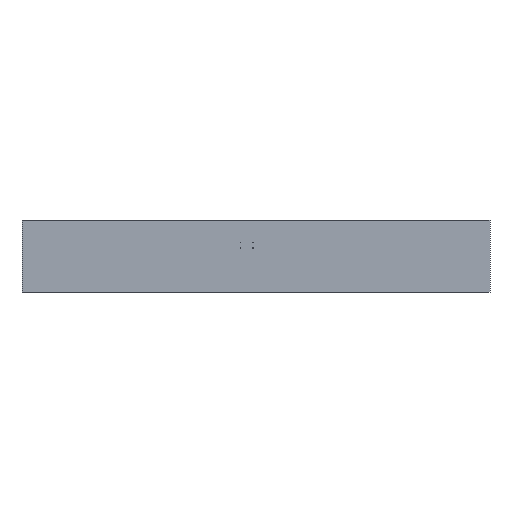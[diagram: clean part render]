
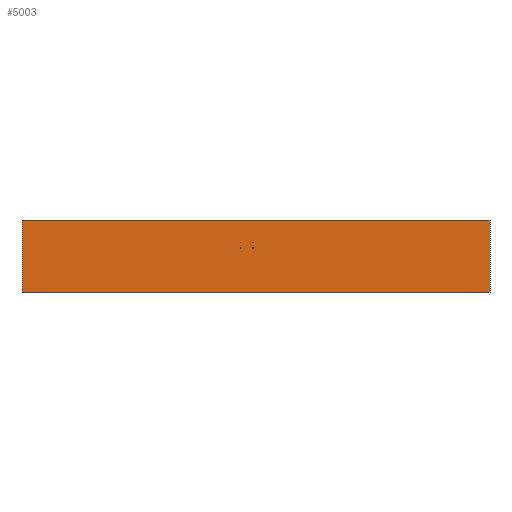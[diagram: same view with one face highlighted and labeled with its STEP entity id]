
A CAD part, front view. The second image highlights one B-rep face of the part: STEP entity #5003.
In plain terms, the highlighted planar face has unit normal (0, -1, 0).
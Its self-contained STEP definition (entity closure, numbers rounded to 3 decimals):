
#369 = VERTEX_POINT ( 'NONE', #97980 ) ;
#782 = VERTEX_POINT ( 'NONE', #93898 ) ;
#1015 = LINE ( 'NONE', #54717, #28345 ) ;
#1260 = CARTESIAN_POINT ( 'NONE',  ( 0., -100., 0. ) ) ;
#2062 = CIRCLE ( 'NONE', #19714, 5. ) ;
#2171 = VERTEX_POINT ( 'NONE', #4560 ) ;
#2278 = DIRECTION ( 'NONE',  ( 0., 0., 1. ) ) ;
#2452 = VECTOR ( 'NONE', #55768, 1000. ) ;
#3754 = DIRECTION ( 'NONE',  ( 0., 0., 1. ) ) ;
#4560 = CARTESIAN_POINT ( 'NONE',  ( 6500., -100., 1000. ) ) ;
#4702 = ORIENTED_EDGE ( 'NONE', *, *, #96717, .T. ) ;
#5003 = ADVANCED_FACE ( 'NONE', ( #64474, #41391, #54955, #69994, #71994 ), #9297, .F. ) ;
#6038 = VERTEX_POINT ( 'NONE', #34611 ) ;
#6929 = EDGE_CURVE ( 'NONE', #47814, #782, #73570, .T. ) ;
#7397 = CARTESIAN_POINT ( 'NONE',  ( -435., -100., 220. ) ) ;
#7838 = DIRECTION ( 'NONE',  ( 0., 1., 0. ) ) ;
#9297 = PLANE ( 'NONE',  #96828 ) ;
#9963 = CIRCLE ( 'NONE', #53144, 5. ) ;
#11673 = CARTESIAN_POINT ( 'NONE',  ( -435., -100., 370. ) ) ;
#13944 = DIRECTION ( 'NONE',  ( 0., 0., 1. ) ) ;
#16450 = EDGE_CURVE ( 'NONE', #51274, #20980, #21847, .T. ) ;
#17346 = DIRECTION ( 'NONE',  ( 0., 1., 0. ) ) ;
#18736 = CARTESIAN_POINT ( 'NONE',  ( -85., -100., 370. ) ) ;
#19208 = EDGE_CURVE ( 'NONE', #6038, #42935, #21784, .T. ) ;
#19451 = VERTEX_POINT ( 'NONE', #21115 ) ;
#19714 = AXIS2_PLACEMENT_3D ( 'NONE', #11673, #49806, #41285 ) ;
#20980 = VERTEX_POINT ( 'NONE', #59508 ) ;
#21115 = CARTESIAN_POINT ( 'NONE',  ( -435., -100., 375. ) ) ;
#21771 = CIRCLE ( 'NONE', #23349, 5. ) ;
#21784 = CIRCLE ( 'NONE', #61913, 5. ) ;
#21785 = LINE ( 'NONE', #66940, #73384 ) ;
#21847 = CIRCLE ( 'NONE', #58730, 5. ) ;
#23092 = ORIENTED_EDGE ( 'NONE', *, *, #16450, .T. ) ;
#23349 = AXIS2_PLACEMENT_3D ( 'NONE', #53990, #7838, #69037 ) ;
#24647 = CARTESIAN_POINT ( 'NONE',  ( -85., -100., 375. ) ) ;
#26306 = ORIENTED_EDGE ( 'NONE', *, *, #98597, .T. ) ;
#27166 = DIRECTION ( 'NONE',  ( 0., 0., 1. ) ) ;
#27573 = ORIENTED_EDGE ( 'NONE', *, *, #59605, .F. ) ;
#28345 = VECTOR ( 'NONE', #61258, 1000. ) ;
#29647 = ORIENTED_EDGE ( 'NONE', *, *, #19208, .T. ) ;
#30197 = VECTOR ( 'NONE', #43634, 1000. ) ;
#34611 = CARTESIAN_POINT ( 'NONE',  ( -85., -100., 215. ) ) ;
#35645 = ORIENTED_EDGE ( 'NONE', *, *, #51438, .T. ) ;
#36207 = ORIENTED_EDGE ( 'NONE', *, *, #57761, .T. ) ;
#36442 = CARTESIAN_POINT ( 'NONE',  ( -435., -100., 215. ) ) ;
#36671 = AXIS2_PLACEMENT_3D ( 'NONE', #18736, #81906, #95996 ) ;
#37951 = CARTESIAN_POINT ( 'NONE',  ( -85., -100., 220. ) ) ;
#39293 = CARTESIAN_POINT ( 'NONE',  ( -85., -100., 225. ) ) ;
#40019 = CIRCLE ( 'NONE', #44801, 5. ) ;
#41285 = DIRECTION ( 'NONE',  ( 0., 0., 1. ) ) ;
#41391 = FACE_BOUND ( 'NONE', #79490, .T. ) ;
#42935 = VERTEX_POINT ( 'NONE', #39293 ) ;
#43438 = CARTESIAN_POINT ( 'NONE',  ( 6500., -100., -1000. ) ) ;
#43519 = EDGE_CURVE ( 'NONE', #369, #2171, #1015, .T. ) ;
#43634 = DIRECTION ( 'NONE',  ( 0., 0., 1. ) ) ;
#44801 = AXIS2_PLACEMENT_3D ( 'NONE', #94624, #17346, #3754 ) ;
#46880 = DIRECTION ( 'NONE',  ( 0., 0., 1. ) ) ;
#47814 = VERTEX_POINT ( 'NONE', #24647 ) ;
#49806 = DIRECTION ( 'NONE',  ( 0., 1., 0. ) ) ;
#50065 = ORIENTED_EDGE ( 'NONE', *, *, #58358, .F. ) ;
#51274 = VERTEX_POINT ( 'NONE', #36442 ) ;
#51438 = EDGE_CURVE ( 'NONE', #19451, #68089, #21771, .T. ) ;
#51579 = CARTESIAN_POINT ( 'NONE',  ( -435., -100., 365. ) ) ;
#51733 = EDGE_LOOP ( 'NONE', ( #69482, #59104, #27573, #50065 ) ) ;
#52847 = ORIENTED_EDGE ( 'NONE', *, *, #78544, .T. ) ;
#53144 = AXIS2_PLACEMENT_3D ( 'NONE', #61931, #83529, #46880 ) ;
#53990 = CARTESIAN_POINT ( 'NONE',  ( -435., -100., 370. ) ) ;
#54717 = CARTESIAN_POINT ( 'NONE',  ( -6500., -100., 1000. ) ) ;
#54955 = FACE_BOUND ( 'NONE', #75023, .T. ) ;
#55768 = DIRECTION ( 'NONE',  ( 0., 0., -1. ) ) ;
#56137 = VERTEX_POINT ( 'NONE', #43438 ) ;
#57718 = LINE ( 'NONE', #97841, #30197 ) ;
#57761 = EDGE_CURVE ( 'NONE', #42935, #6038, #86227, .T. ) ;
#58358 = EDGE_CURVE ( 'NONE', #56137, #91983, #21785, .T. ) ;
#58730 = AXIS2_PLACEMENT_3D ( 'NONE', #7397, #98257, #13944 ) ;
#59104 = ORIENTED_EDGE ( 'NONE', *, *, #43519, .F. ) ;
#59508 = CARTESIAN_POINT ( 'NONE',  ( -435., -100., 225. ) ) ;
#59605 = EDGE_CURVE ( 'NONE', #91983, #369, #57718, .T. ) ;
#61258 = DIRECTION ( 'NONE',  ( 1., 0., 0. ) ) ;
#61913 = AXIS2_PLACEMENT_3D ( 'NONE', #95932, #72341, #27166 ) ;
#61931 = CARTESIAN_POINT ( 'NONE',  ( -85., -100., 370. ) ) ;
#63806 = CARTESIAN_POINT ( 'NONE',  ( 6500., -100., -1000. ) ) ;
#63969 = DIRECTION ( 'NONE',  ( 0., 0., 1. ) ) ;
#64474 = FACE_BOUND ( 'NONE', #88051, .T. ) ;
#66940 = CARTESIAN_POINT ( 'NONE',  ( -6500., -100., -1000. ) ) ;
#67162 = EDGE_CURVE ( 'NONE', #2171, #56137, #86900, .T. ) ;
#68089 = VERTEX_POINT ( 'NONE', #51579 ) ;
#68545 = DIRECTION ( 'NONE',  ( 0., 1., 0. ) ) ;
#69037 = DIRECTION ( 'NONE',  ( 0., 0., 1. ) ) ;
#69482 = ORIENTED_EDGE ( 'NONE', *, *, #67162, .F. ) ;
#69994 = FACE_BOUND ( 'NONE', #88542, .T. ) ;
#70214 = AXIS2_PLACEMENT_3D ( 'NONE', #37951, #68545, #2278 ) ;
#70644 = ORIENTED_EDGE ( 'NONE', *, *, #6929, .T. ) ;
#71994 = FACE_OUTER_BOUND ( 'NONE', #51733, .T. ) ;
#72341 = DIRECTION ( 'NONE',  ( 0., 1., 0. ) ) ;
#73384 = VECTOR ( 'NONE', #98574, 1000. ) ;
#73570 = CIRCLE ( 'NONE', #36671, 5. ) ;
#75023 = EDGE_LOOP ( 'NONE', ( #35645, #26306 ) ) ;
#78541 = DIRECTION ( 'NONE',  ( 0., 1., 0. ) ) ;
#78544 = EDGE_CURVE ( 'NONE', #20980, #51274, #40019, .T. ) ;
#79490 = EDGE_LOOP ( 'NONE', ( #52847, #23092 ) ) ;
#81824 = CARTESIAN_POINT ( 'NONE',  ( -6500., -100., -1000. ) ) ;
#81906 = DIRECTION ( 'NONE',  ( 0., 1., 0. ) ) ;
#83529 = DIRECTION ( 'NONE',  ( 0., 1., 0. ) ) ;
#86227 = CIRCLE ( 'NONE', #70214, 5. ) ;
#86900 = LINE ( 'NONE', #63806, #2452 ) ;
#88051 = EDGE_LOOP ( 'NONE', ( #70644, #4702 ) ) ;
#88542 = EDGE_LOOP ( 'NONE', ( #36207, #29647 ) ) ;
#91983 = VERTEX_POINT ( 'NONE', #81824 ) ;
#93898 = CARTESIAN_POINT ( 'NONE',  ( -85., -100., 365. ) ) ;
#94624 = CARTESIAN_POINT ( 'NONE',  ( -435., -100., 220. ) ) ;
#95932 = CARTESIAN_POINT ( 'NONE',  ( -85., -100., 220. ) ) ;
#95996 = DIRECTION ( 'NONE',  ( 0., 0., 1. ) ) ;
#96717 = EDGE_CURVE ( 'NONE', #782, #47814, #9963, .T. ) ;
#96828 = AXIS2_PLACEMENT_3D ( 'NONE', #1260, #78541, #63969 ) ;
#97841 = CARTESIAN_POINT ( 'NONE',  ( -6500., -100., -1000. ) ) ;
#97980 = CARTESIAN_POINT ( 'NONE',  ( -6500., -100., 1000. ) ) ;
#98257 = DIRECTION ( 'NONE',  ( 0., 1., 0. ) ) ;
#98574 = DIRECTION ( 'NONE',  ( -1., 0., 0. ) ) ;
#98597 = EDGE_CURVE ( 'NONE', #68089, #19451, #2062, .T. ) ;
